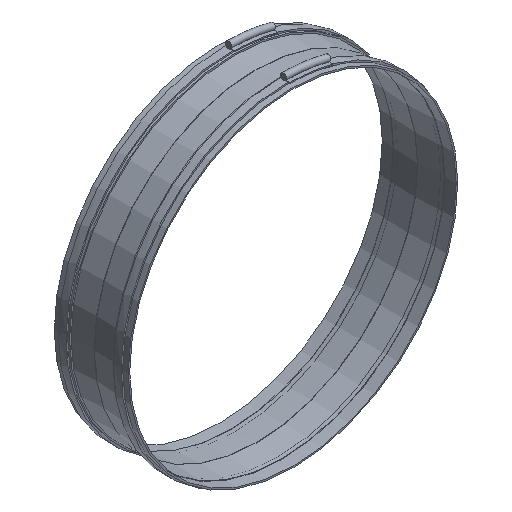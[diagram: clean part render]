
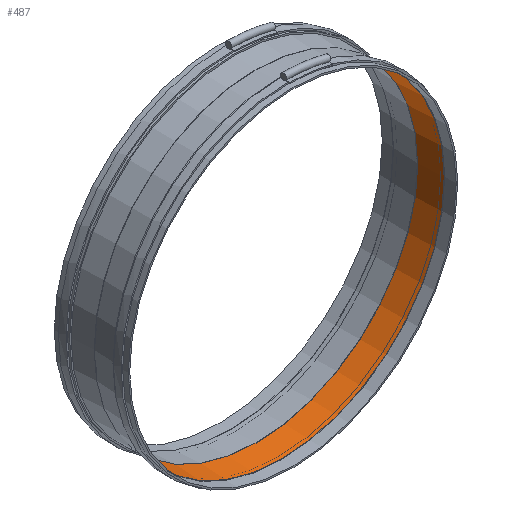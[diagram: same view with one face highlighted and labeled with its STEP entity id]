
A CAD part, isometric view. The second image highlights one B-rep face of the part: STEP entity #487.
In plain terms, the highlighted conical face has half-angle 3 degrees and reference radius 317.688 mm.
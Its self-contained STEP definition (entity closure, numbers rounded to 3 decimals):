
#15=CONICAL_SURFACE('',#565,317.688,3.);
#36=FACE_BOUND('',#145,.T.);
#90=FACE_OUTER_BOUND('',#144,.T.);
#144=EDGE_LOOP('',(#411));
#145=EDGE_LOOP('',(#412));
#221=CIRCLE('',#564,316.378);
#222=CIRCLE('',#566,318.999);
#261=VERTEX_POINT('',#852);
#262=VERTEX_POINT('',#855);
#313=EDGE_CURVE('',#261,#261,#221,.T.);
#314=EDGE_CURVE('',#262,#262,#222,.T.);
#411=ORIENTED_EDGE('',*,*,#313,.T.);
#412=ORIENTED_EDGE('',*,*,#314,.F.);
#487=ADVANCED_FACE('',(#90,#36),#15,.F.);
#564=AXIS2_PLACEMENT_3D('',#853,#717,#718);
#565=AXIS2_PLACEMENT_3D('',#854,#719,#720);
#566=AXIS2_PLACEMENT_3D('',#856,#721,#722);
#717=DIRECTION('center_axis',(0.,1.,0.));
#718=DIRECTION('ref_axis',(1.,0.,0.));
#719=DIRECTION('center_axis',(0.,-1.,0.));
#720=DIRECTION('ref_axis',(0.,0.,1.));
#721=DIRECTION('center_axis',(0.,1.,0.));
#722=DIRECTION('ref_axis',(1.,0.,0.));
#852=CARTESIAN_POINT('',(0.,0.,316.378));
#853=CARTESIAN_POINT('Origin',(0.,0.,0.));
#854=CARTESIAN_POINT('Origin',(0.,-25.,0.));
#855=CARTESIAN_POINT('',(0.,-50.,318.999));
#856=CARTESIAN_POINT('Origin',(0.,-50.,0.));
